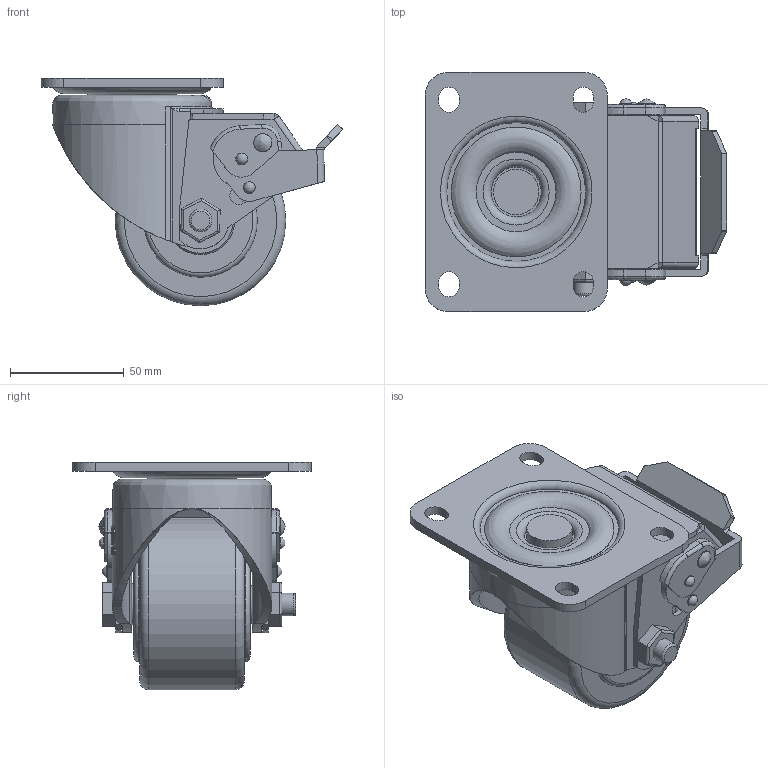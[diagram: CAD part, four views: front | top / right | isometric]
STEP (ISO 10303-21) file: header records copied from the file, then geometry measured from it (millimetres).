
FILE_DESCRIPTION(/* description */ (''),/* implementation_level */ '2;1');
FILE_NAME(/* name */ '30A27_3_F.stp',/* time_stamp */ '2022-10-07T08:15:19+08:00',/* author */ (''),/* organization */ (''),/* preprocessor_version */ 'ST-DEVELOPER v14',/* originating_system */ 'SIEMENS PLM Software NX 8.0',/* authorisation */ '');
FILE_SCHEMA (('AUTOMOTIVE_DESIGN { 1 0 10303 214 3 1 1 1 }'));
Length unit declared in the file: millimetre
Products named in the file (1): 30A27_3_F
Bounding box: 132.56 x 105 x 100 mm (x, y, z)
Volume: 334266.6 mm3; surface area: 104241.7 mm2
Topology: 1 solids, 6 shells, 654 faces, 1803 edges, 1183 vertices
Faces by surface type: plane 357, cylinder 206, torus 44, sphere 22, cone 14, bspline 11
Full cylindrical faces by diameter (mm): 5.2 x4, 7.2 x4, 8 x5, 10 x5, 10.2 x3, 12.2 x1, 16.667 x2, 18 x2, 20 x1, 23.333 x4, 24.05 x2, 30 x4, 32.2 x1, 50 x2, 57 x1, 62 x1, 75 x1
Entity records: 22972 total; most frequent: CARTESIAN_POINT 6898, DIRECTION 3344, ORIENTED_EDGE 3268, EDGE_CURVE 1634, AXIS2_PLACEMENT_3D 1273, VERTEX_POINT 1128, EDGE_LOOP 818, LINE 798
